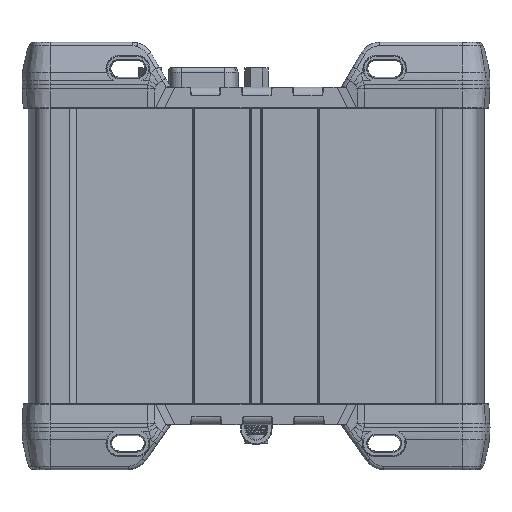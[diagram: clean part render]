
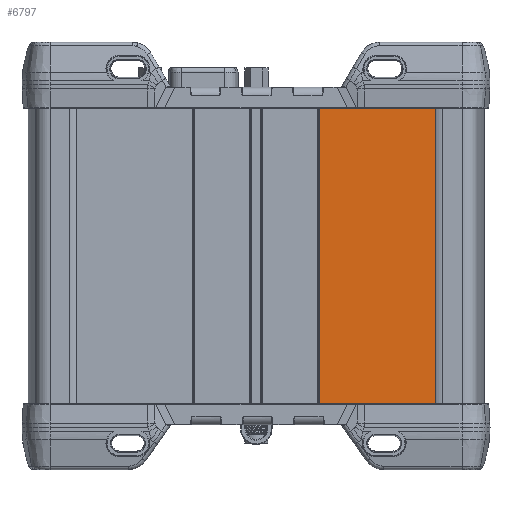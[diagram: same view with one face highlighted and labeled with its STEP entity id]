
A CAD part, front view. The second image highlights one B-rep face of the part: STEP entity #6797.
In plain terms, the highlighted planar face has unit normal (0, -1, 0).
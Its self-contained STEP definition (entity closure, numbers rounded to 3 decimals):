
#6797 = ADVANCED_FACE ( 'NONE', ( #153051 ), #27771, .T. ) ;
#8448 = EDGE_CURVE ( 'NONE', #127123, #80504, #100481, .T. ) ;
#12382 = CARTESIAN_POINT ( 'NONE',  ( 52.936, -44.8, -1.25 ) ) ;
#14032 = VERTEX_POINT ( 'NONE', #136259 ) ;
#22548 = ORIENTED_EDGE ( 'NONE', *, *, #8448, .F. ) ;
#25943 = CARTESIAN_POINT ( 'NONE',  ( 94.822, -44.799, -70.55 ) ) ;
#27771 = PLANE ( 'NONE',  #101655 ) ;
#38749 = DIRECTION ( 'NONE',  ( 0., 0., -1. ) ) ;
#39306 = VERTEX_POINT ( 'NONE', #110288 ) ;
#47086 = EDGE_CURVE ( 'NONE', #14032, #39306, #64486, .T. ) ;
#54626 = DIRECTION ( 'NONE',  ( 1., 0., 0. ) ) ;
#60739 = VECTOR ( 'NONE', #73261, 1000. ) ;
#64486 = LINE ( 'NONE', #12382, #156511 ) ;
#70576 = VECTOR ( 'NONE', #147299, 1000. ) ;
#72048 = EDGE_LOOP ( 'NONE', ( #22548, #123730, #101687, #125153 ) ) ;
#73261 = DIRECTION ( 'NONE',  ( -1., 0., 0. ) ) ;
#80504 = VERTEX_POINT ( 'NONE', #84185 ) ;
#84185 = CARTESIAN_POINT ( 'NONE',  ( 67.822, -44.8, -70.55 ) ) ;
#93746 = DIRECTION ( 'NONE',  ( 0., -1., 0. ) ) ;
#100481 = LINE ( 'NONE', #141589, #60739 ) ;
#101655 = AXIS2_PLACEMENT_3D ( 'NONE', #121175, #93746, #54626 ) ;
#101687 = ORIENTED_EDGE ( 'NONE', *, *, #47086, .F. ) ;
#104188 = CARTESIAN_POINT ( 'NONE',  ( 94.822, -44.799, 0. ) ) ;
#110288 = CARTESIAN_POINT ( 'NONE',  ( 94.822, -44.799, -1.25 ) ) ;
#121175 = CARTESIAN_POINT ( 'NONE',  ( 52.936, -44.8, 0. ) ) ;
#123730 = ORIENTED_EDGE ( 'NONE', *, *, #130188, .F. ) ;
#125153 = ORIENTED_EDGE ( 'NONE', *, *, #130390, .T. ) ;
#127123 = VERTEX_POINT ( 'NONE', #25943 ) ;
#130188 = EDGE_CURVE ( 'NONE', #39306, #127123, #162429, .T. ) ;
#130390 = EDGE_CURVE ( 'NONE', #14032, #80504, #135288, .T. ) ;
#133251 = VECTOR ( 'NONE', #38749, 1000. ) ;
#135288 = LINE ( 'NONE', #149049, #70576 ) ;
#136259 = CARTESIAN_POINT ( 'NONE',  ( 67.822, -44.8, -1.25 ) ) ;
#141589 = CARTESIAN_POINT ( 'NONE',  ( 52.936, -44.8, -70.55 ) ) ;
#146063 = DIRECTION ( 'NONE',  ( 1., 0., 0. ) ) ;
#147299 = DIRECTION ( 'NONE',  ( 0., 0., -1. ) ) ;
#149049 = CARTESIAN_POINT ( 'NONE',  ( 67.822, -44.8, 0. ) ) ;
#153051 = FACE_OUTER_BOUND ( 'NONE', #72048, .T. ) ;
#156511 = VECTOR ( 'NONE', #146063, 1000. ) ;
#162429 = LINE ( 'NONE', #104188, #133251 ) ;
